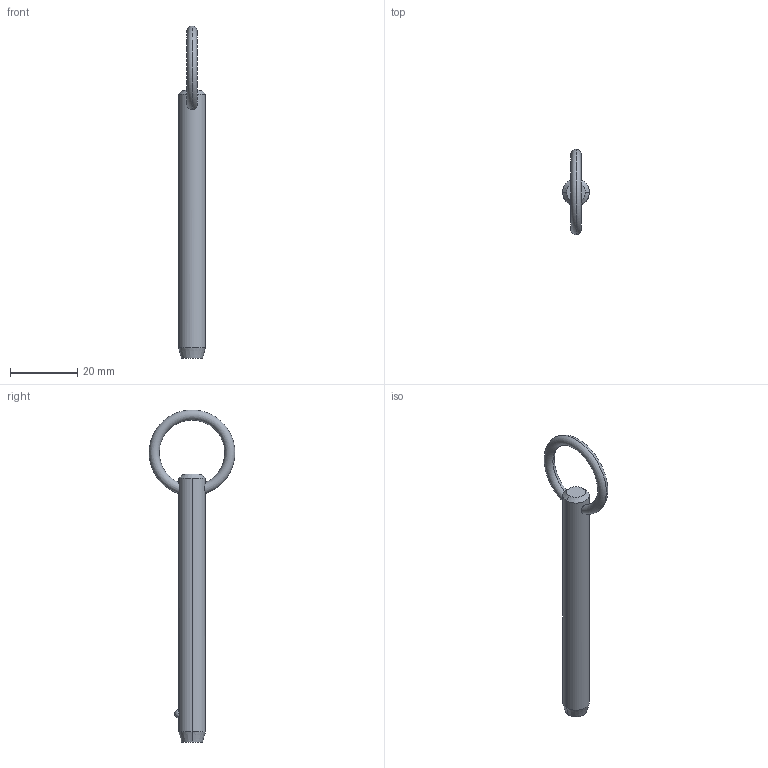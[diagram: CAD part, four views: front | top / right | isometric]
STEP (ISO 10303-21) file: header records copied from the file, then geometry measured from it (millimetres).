
FILE_DESCRIPTION (( 'STEP AP203' ), '1' );
FILE_NAME ('P1250.031-250.step', '2019-07-29T19:51:46', ( '' ), ( '' ), 'SwSTEP 2.0', 'SolidWorks 2017', '' );
FILE_SCHEMA (( 'CONFIG_CONTROL_DESIGN' ));
Length unit declared in the file: millimetre
Products named in the file (1): P1250.031-250
Bounding box: 7.93 x 25.36 x 98.4 mm (x, y, z)
Volume: 4320.6 mm3; surface area: 2612.7 mm2
Topology: 1 solids, 1 shells, 12 faces, 28 edges, 17 vertices
Faces by surface type: cone 4, torus 2, sphere 2, cylinder 2, plane 2
Entity records: 509 total; most frequent: CARTESIAN_POINT 176, DIRECTION 56, ORIENTED_EDGE 48, AXIS2_PLACEMENT_3D 25, EDGE_CURVE 24, VERTEX_POINT 15, EDGE_LOOP 15, FACE_OUTER_BOUND 12
